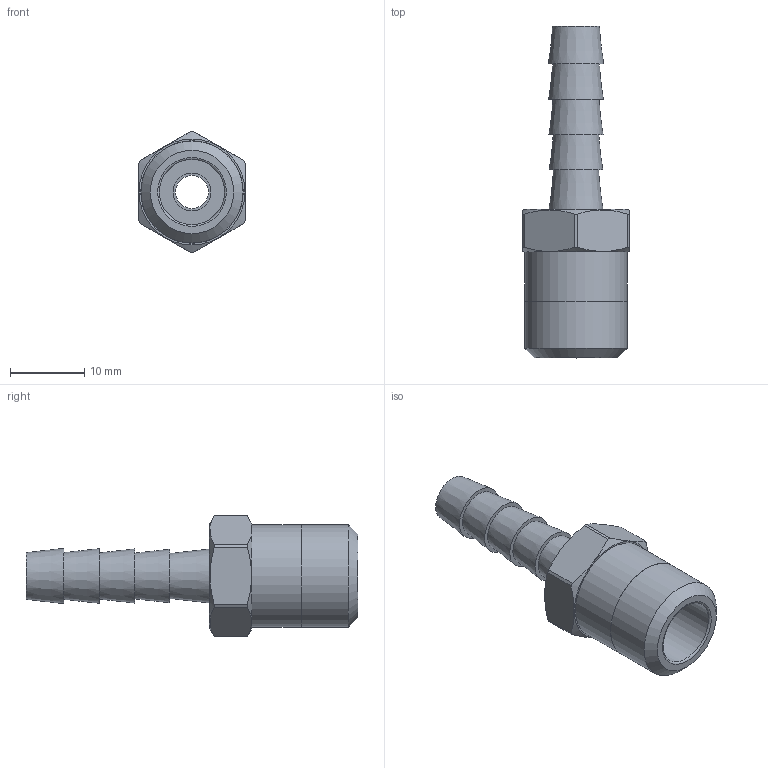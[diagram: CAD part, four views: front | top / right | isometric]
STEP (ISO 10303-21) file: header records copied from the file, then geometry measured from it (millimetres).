
FILE_DESCRIPTION(/* description */ (''),/* implementation_level */ '2;1');
FILE_NAME(/* name */ 'C:/Users/drich/Desktop/MB14-4 v3.step',/* time_stamp */ '2020-02-02T14:54:07-06:00',/* author */ (''),/* organization */ (''),/* preprocessor_version */ 'ST-DEVELOPER v18',/* originating_system */ 'Autodesk Translation Framework v8.12.0.6',/* authorisation */ '');
FILE_SCHEMA (('AUTOMOTIVE_DESIGN { 1 0 10303 214 3 1 1 }'));
Length unit declared in the file: inch
Products named in the file (2): MB14-4; 14 BARB ONLY
Assembly tree (1 placements, depth 2):
  MB14-4
    14 BARB ONLY
Bounding box: 14.27 x 44.58 x 16.26 mm (x, y, z)
Volume: 2602.1 mm3; surface area: 2589.4 mm2
Topology: 2 solids, 2 shells, 38 faces, 100 edges, 72 vertices
Faces by surface type: plane 16, cylinder 11, cone 10, torus 1
Full cylindrical faces by diameter (mm): 4.445 x1, 5.08 x1, 8.738 x1, 13.716 x1, 13.767 x1
Entity records: 1292 total; most frequent: CARTESIAN_POINT 237, DIRECTION 231, ORIENTED_EDGE 200, AXIS2_PLACEMENT_3D 102, EDGE_CURVE 100, VERTEX_POINT 72, CIRCLE 61, EDGE_LOOP 48
